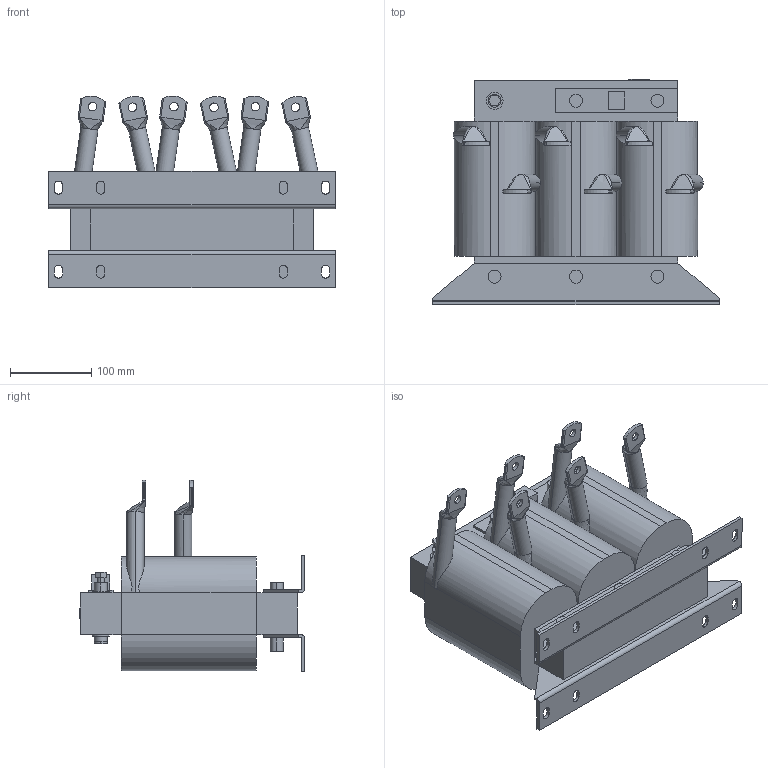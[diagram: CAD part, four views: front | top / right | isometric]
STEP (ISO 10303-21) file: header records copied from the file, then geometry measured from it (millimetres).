
FILE_DESCRIPTION (( 'STEP AP214' ), '1' );
FILE_NAME ('00Z1FX4-0027.STEP', '2022-08-15T11:26:54', ( '' ), ( '' ), 'SwSTEP 2.0', 'SolidWorks 2022', '' );
FILE_SCHEMA (( 'AUTOMOTIVE_DESIGN' ));
Length unit declared in the file: centimetre
Products named in the file (1): 00Z1FX4-0027
Bounding box: 352 x 277.02 x 235.68 mm (x, y, z)
Volume: 7831198.5 mm3; surface area: 472964.4 mm2
Topology: 1 solids, 1 shells, 387 faces, 1029 edges, 662 vertices
Faces by surface type: plane 185, cylinder 135, bspline 67
Entity records: 16342 total; most frequent: CARTESIAN_POINT 7008, ORIENTED_EDGE 2058, DIRECTION 1595, EDGE_CURVE 1029, VERTEX_POINT 662, LINE 541, VECTOR 541, AXIS2_PLACEMENT_3D 527
